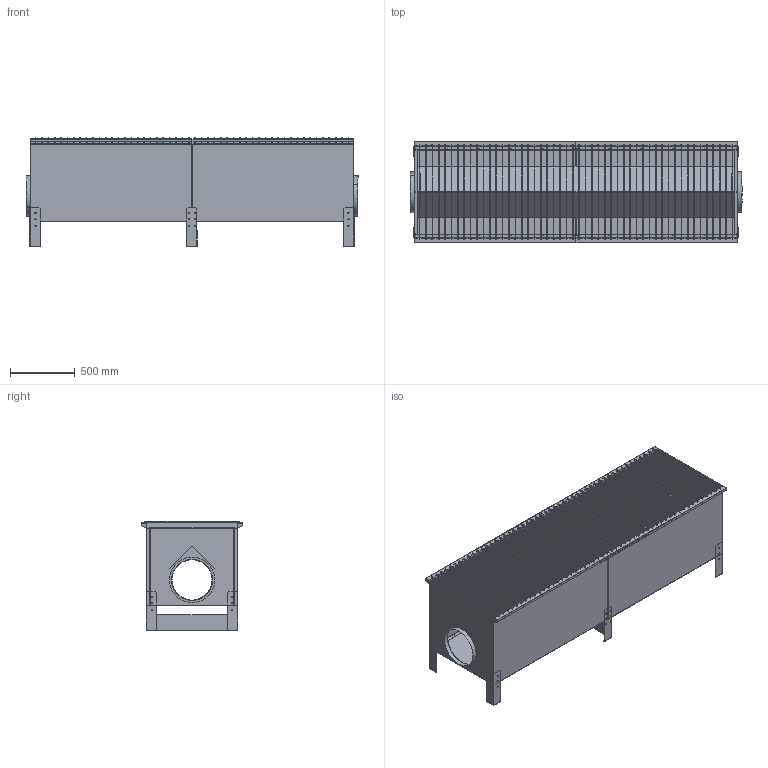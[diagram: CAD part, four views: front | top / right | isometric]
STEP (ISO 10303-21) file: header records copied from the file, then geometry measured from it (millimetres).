
FILE_DESCRIPTION(('STEP AP214'),'1');
FILE_NAME('02-006 Svejsebord 2500x800x800mm.stp','2017-01-18T10:34:18',(' '),(' '),'Spatial InterOp 3D',' ',' ');
FILE_SCHEMA(('automotive_design'));
Length unit declared in the file: metre
Products named in the file (24): 02-006 Svejsebord 2500x800x800mm-asm1; 02-006 Svejsebord 2500x800x800mm-prt0; 02-006 Svejsebord 2500x800x800mm-prt1; 02-006 Svejsebord 2500x800x800mm-prt2; 02-006 Svejsebord 2500x800x800mm; 02-006 Svejsebord 2500x800x800mm-asm3; 02-006 Svejsebord 2500x800x800mm-prt3; 02-006 Svejsebord 2500x800x800mm-prt4; 02-006 Svejsebord 2500x800x800mm-asm2; 02-006 Svejsebord 2500x800x800mm-prt5; 02-006 Svejsebord 2500x800x800mm-prt6; 02-006 Svejsebord 2500x800x800mm-prt7; 02-006 Svejsebord 2500x800x800mm-prt8; 02-006 Svejsebord 2500x800x800mm-prt9; 02-006 Svejsebord 2500x800x800mm-prt10; 02-006 Svejsebord 2500x800x800mm-prt11; 02-006 Svejsebord 2500x800x800mm-prt12
Assembly tree (79 placements, depth 4):
  02-006 Svejsebord 2500x800x800mm
    02-006 Svejsebord 2500x800x800mm-asm1
      02-006 Svejsebord 2500x800x800mm-prt0
      02-006 Svejsebord 2500x800x800mm-prt1
      02-006 Svejsebord 2500x800x800mm-prt2
    02-006 Svejsebord 2500x800x800mm-asm1
      02-006 Svejsebord 2500x800x800mm-prt0
      02-006 Svejsebord 2500x800x800mm-prt1
      02-006 Svejsebord 2500x800x800mm-prt2
    02-006 Svejsebord 2500x800x800mm-asm2
      02-006 Svejsebord 2500x800x800mm-asm3
        02-006 Svejsebord 2500x800x800mm-prt3
        02-006 Svejsebord 2500x800x800mm-prt4
      02-006 Svejsebord 2500x800x800mm-asm3
        02-006 Svejsebord 2500x800x800mm-prt3
        02-006 Svejsebord 2500x800x800mm-prt4
      02-006 Svejsebord 2500x800x800mm-prt5  x2
      02-006 Svejsebord 2500x800x800mm-prt6  x50
    02-006 Svejsebord 2500x800x800mm-prt7  x2
    02-006 Svejsebord 2500x800x800mm-prt8  x2
    02-006 Svejsebord 2500x800x800mm-prt9  x2
    02-006 Svejsebord 2500x800x800mm-prt10  x4
    02-006 Svejsebord 2500x800x800mm-prt11
    02-006 Svejsebord 2500x800x800mm-prt12
Bounding box: 2565.7 x 787.5 x 843.19 mm (x, y, z)
Volume: 19958012.8 mm3; surface area: 21060000.5 mm2
Topology: 74 solids, 74 shells, 2266 faces, 6756 edges, 4440 vertices
Faces by surface type: plane 1314, cylinder 936, torus 8, bspline 8
Entity records: 39953 total; most frequent: CARTESIAN_POINT 5670, ORIENTED_EDGE 5600, DIRECTION 5524, EDGE_CURVE 2800, LINE 2016, VECTOR 2016, VERTEX_POINT 1836, AXIS2_PLACEMENT_3D 1754
